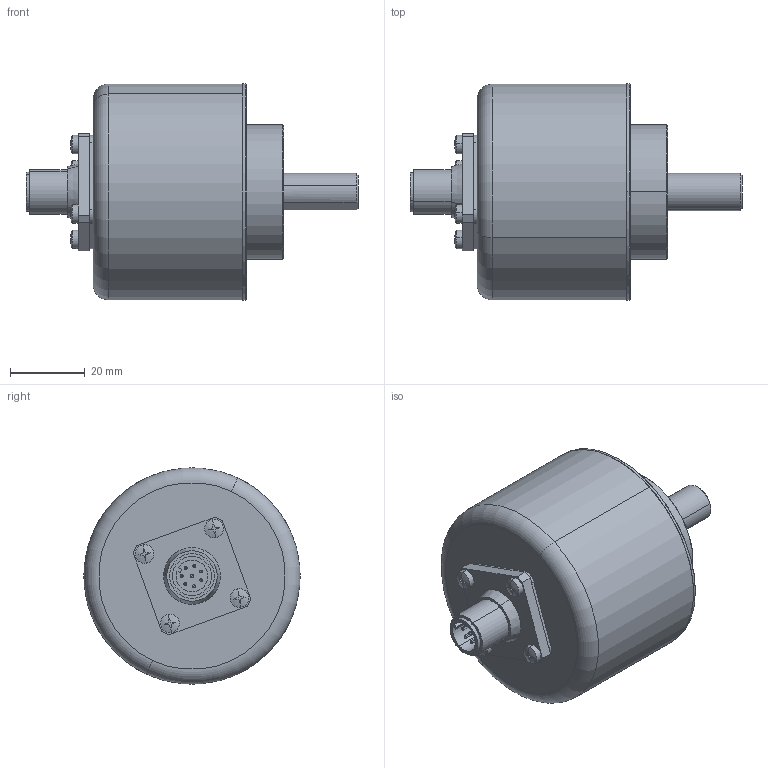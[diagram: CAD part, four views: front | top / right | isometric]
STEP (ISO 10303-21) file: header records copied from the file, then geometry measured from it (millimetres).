
FILE_DESCRIPTION (( 'STEP AP203' ), '1' );
FILE_NAME ('8.5805.12XT.XXXX.STEP', '2013-08-01T06:05:45', ( 'LauferA' ), ( 'Microsoft' ), 'SwSTEP 2.0', 'SolidWorks 2012', '' );
FILE_SCHEMA (( 'CONFIG_CONTROL_DESIGN' ));
Length unit declared in the file: millimetre
Products named in the file (1): 8.5805.12XT.XXXX
Bounding box: 88.95 x 58 x 58 mm (x, y, z)
Volume: 51486.1 mm3; surface area: 39228.5 mm2
Topology: 10 solids, 10 shells, 339 faces, 859 edges, 527 vertices
Faces by surface type: cylinder 126, plane 96, cone 51, sphere 44, torus 22
Entity records: 10299 total; most frequent: CARTESIAN_POINT 2250, DIRECTION 1822, ORIENTED_EDGE 1526, EDGE_CURVE 763, AXIS2_PLACEMENT_3D 761, VERTEX_POINT 481, EDGE_LOOP 428, CIRCLE 421
